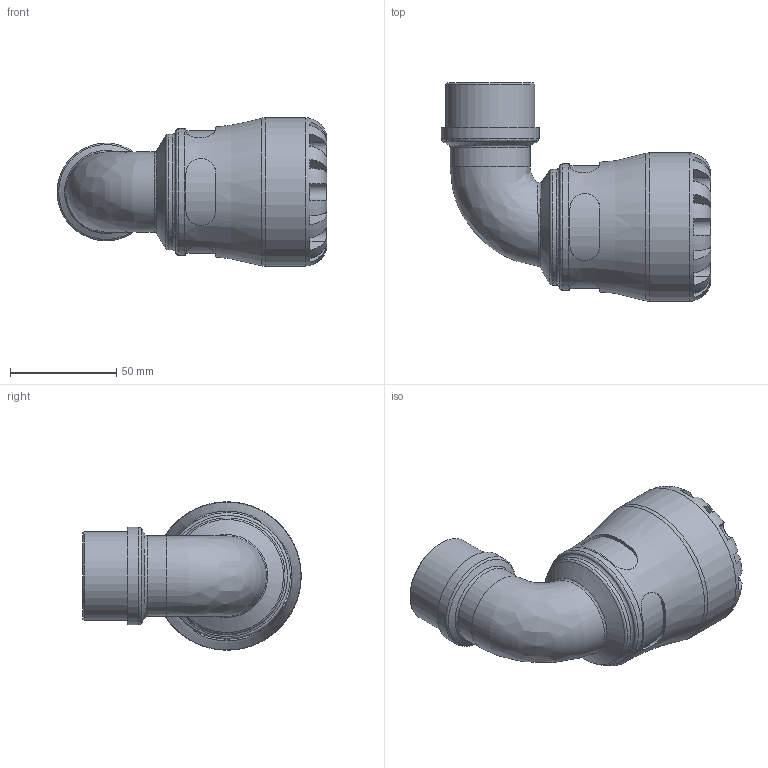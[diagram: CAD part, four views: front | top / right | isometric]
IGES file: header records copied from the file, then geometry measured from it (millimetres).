
Global section: file name: 107700040013_197700040013.ipt; native system: Autodesk Inventor 2015; preprocessor: unknown; author: KIM; date: 20170122.115502; units: millimetre
Bounding box: 127.05 x 103 x 70 mm (x, y, z)
Volume: 199262.8 mm3; surface area: 49706 mm2
Topology: 1 solids, 1 shells, 112 faces, 288 edges, 183 vertices
Faces by surface type: plane 60, revolution 28, cylinder 18, bspline 4, cone 2
Full cylindrical faces by diameter (mm): 37.719 x1, 41.91 x1, 46.101 x1, 54.6 x1, 59.5 x1, 70 x1
